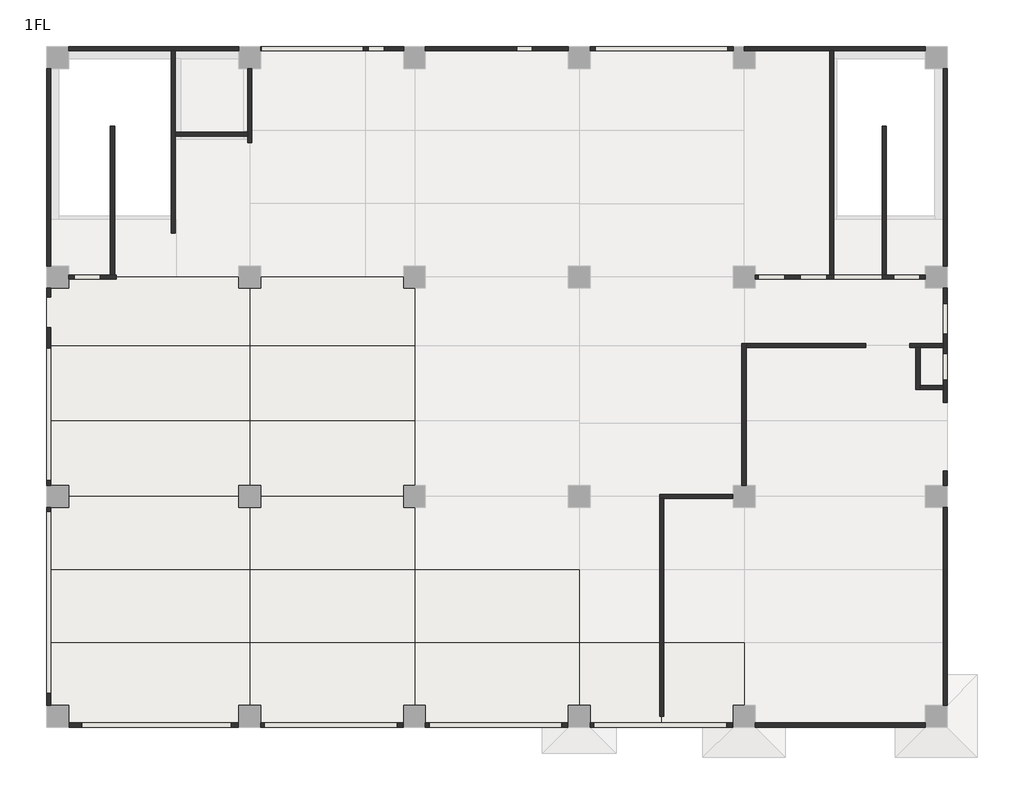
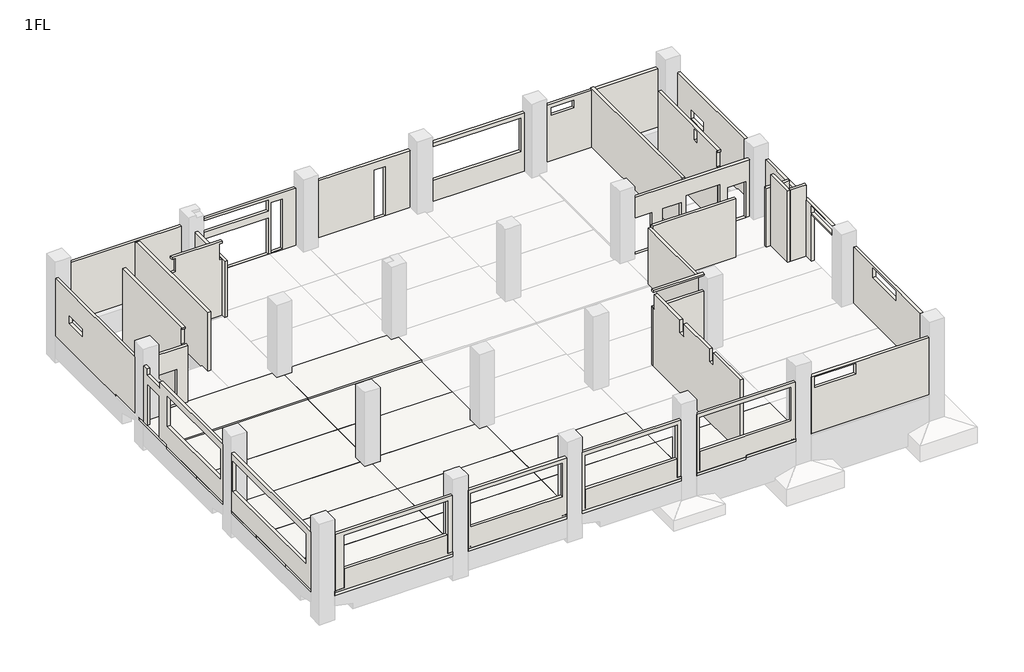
# One storey, part 1 of 4: 31 walls, 16 slabs.
"""IFC4 building model written with IfcOpenShell, lengths in millimetres."""

from ifc_helpers import new_model, si_unit, frame, origin, place, context, project, spatial, polyline, outline, extrude, faceted_brep, element, save

model = new_model("IFC4")

# Units and contexts
model_context = context("Model", 3, world=origin())
ifc_project = project(units=[si_unit("LENGTHUNIT", "METRE", prefix="MILLI")], contexts=[model_context])

# Site, building, storey
site = spatial("IfcSite", under=ifc_project)
building = spatial("IfcBuilding", under=site)
storey = spatial("IfcBuildingStorey", under=building, Name="1FL", Elevation=0.0)

# Slabs
placement = place(None, origin())
element("IfcSlab", 1, ObjectType="S1", at=placement, inside=storey, context=model_context, shape_type="Brep", body=[
    faceted_brep([(19000.0, 2667.0, -250.0), (22000.0, 2667.0, -250.0), (22000.0, 0.0, -250.0), (22000.0, -400.0, -250.0), (19400.0, -400.0, -250.0), (19400.0, 50.0, -250.0), (19400.0, 400.0, -250.0), (19225.0, 400.0, -250.0), (19000.0, 400.0, -250.0), (19000.0, 2664.0, -250.0), (22000.0, 2667.0, -100.0), (19000.0, 2667.0, -100.0), (19000.0, 2664.0, -100.0), (19000.0, 400.0, -100.0), (19400.0, 400.0, -100.0), (19400.0, -250.0, -100.0), (19400.0, -400.0, -100.0), (22000.0, -400.0, -100.0), (22000.0, -250.0, -100.0), (22000.0, -400.0, -160.0), (22000.0, 2667.0, -160.0)], [[[0, 1, 2, 3, 4, 5, 6, 7, 8, 9]], [[10, 11, 12, 13, 14, 15, 16, 17, 18]], [[3, 19, 17, 16, 4]], [[11, 0, 9, 8, 13, 12]], [[1, 0, 11, 10, 20]], [[3, 2, 1, 20, 10, 18, 17, 19]], [[14, 6, 5, 4, 16, 15]], [[6, 14, 13, 8, 7]]]),
])
element("IfcSlab", 2, ObjectType="S1", at=placement, inside=storey, context=model_context, shape_type="Brep", body=[
    faceted_brep([(22000.0, -400.0, -160.0), (22000.0, 0.0, -160.0), (22000.0, 2667.0, -160.0), (25000.0, 2667.0, -160.0), (25000.0, 2664.0, -160.0), (25000.0, 400.0, -160.0), (24775.0, 400.0, -160.0), (24600.0, 400.0, -160.0), (24600.0, 50.0, -160.0), (24600.0, -400.0, -160.0), (22000.0, 2667.0, -10.0), (22000.0, -250.0, -10.0), (22000.0, -400.0, -10.0), (24600.0, -400.0, -10.0), (24600.0, -250.0, -10.0), (24600.0, 400.0, -10.0), (25000.0, 400.0, -10.0), (25000.0, 2664.0, -10.0), (25000.0, 2667.0, -10.0), (22000.0, -400.0, -100.0), (22000.0, 2667.0, -100.0)], [[[0, 1, 2, 3, 4, 5, 6, 7, 8, 9]], [[10, 11, 12, 13, 14, 15, 16, 17, 18]], [[12, 19, 0, 9, 13]], [[2, 1, 0, 19, 12, 11, 10, 20]], [[3, 2, 20, 10, 18]], [[3, 18, 17, 16, 5, 4]], [[7, 15, 14, 13, 9, 8]], [[15, 7, 6, 5, 16]]]),
])
element("IfcSlab", 3, ObjectType="S2", at=placement, inside=storey, context=model_context, shape_type="Brep", body=[
    faceted_brep([(-400.0, 2664.0, -250.0), (7000.0, 2664.0, -250.0), (7000.0, 400.0, -250.0), (6775.0, 400.0, -250.0), (6600.0, 400.0, -250.0), (6600.0, 50.0, -250.0), (6600.0, -400.0, -250.0), (400.0, -400.0, -250.0), (400.0, 50.0, -250.0), (400.0, 400.0, -250.0), (50.0, 400.0, -250.0), (-400.0, 400.0, -250.0), (7000.0, 2664.0, -100.0), (-400.0, 2664.0, -100.0), (-400.0, 400.0, -100.0), (-250.0, 400.0, -100.0), (400.0, 400.0, -100.0), (400.0, -250.0, -100.0), (400.0, -400.0, -100.0), (6600.0, -400.0, -100.0), (6600.0, -250.0, -100.0), (6600.0, 400.0, -100.0), (7000.0, 400.0, -100.0)], [[[0, 1, 2, 3, 4, 5, 6, 7, 8, 9, 10, 11]], [[12, 13, 14, 15, 16, 17, 18, 19, 20, 21, 22]], [[18, 7, 6, 19]], [[13, 0, 11, 14]], [[1, 0, 13, 12]], [[1, 12, 22, 2]], [[16, 9, 8, 7, 18, 17]], [[9, 16, 15, 14, 11, 10]], [[4, 21, 20, 19, 6, 5]], [[21, 4, 3, 2, 22]]]),
])
element("IfcSlab", 4, ObjectType="S2", at=placement, inside=storey, context=model_context, shape_type="SweptSolid", body=[
    extrude(outline(polyline([(7000.0, 5328.0), (7000.0, 2664.0), (-400.0, 2664.0), (-400.0, 5328.0), (7000.0, 5328.0)])), frame((0.0, 0.0, -250.0), z_axis=(0.0, 0.0, 1.0), x_axis=(1.0, 0.0, 0.0)), (0.0, 0.0, 1.0), 150.0),
])
element("IfcSlab", 5, ObjectType="S2", at=placement, inside=storey, context=model_context, shape_type="Brep", body=[
    faceted_brep([(7000.0, 5328.0, -250.0), (-400.0, 5328.0, -250.0), (-400.0, 7600.0, -250.0), (50.0, 7600.0, -250.0), (400.0, 7600.0, -250.0), (400.0, 7775.0, -250.0), (400.0, 8000.0, -250.0), (6600.0, 8000.0, -250.0), (6600.0, 7775.0, -250.0), (6600.0, 7600.0, -250.0), (6775.0, 7600.0, -250.0), (7000.0, 7600.0, -250.0), (-400.0, 5328.0, -100.0), (7000.0, 5328.0, -100.0), (7000.0, 7600.0, -100.0), (6600.0, 7600.0, -100.0), (6600.0, 8000.0, -100.0), (400.0, 8000.0, -100.0), (400.0, 7600.0, -100.0), (-250.0, 7600.0, -100.0), (-400.0, 7600.0, -100.0)], [[[0, 1, 2, 3, 4, 5, 6, 7, 8, 9, 10, 11]], [[12, 13, 14, 15, 16, 17, 18, 19, 20]], [[13, 0, 11, 14]], [[1, 0, 13, 12]], [[1, 12, 20, 2]], [[6, 17, 16, 7]], [[4, 18, 17, 6, 5]], [[18, 4, 3, 2, 20, 19]], [[9, 15, 14, 11, 10]], [[15, 9, 8, 7, 16]]]),
])
element("IfcSlab", 6, ObjectType="S2", at=placement, inside=storey, context=model_context, shape_type="Brep", body=[
    faceted_brep([(7000.0, 2664.0, -250.0), (13000.0, 2664.0, -250.0), (13000.0, 400.0, -250.0), (12775.0, 400.0, -250.0), (12600.0, 400.0, -250.0), (12600.0, 50.0, -250.0), (12600.0, -400.0, -250.0), (7400.0, -400.0, -250.0), (7400.0, 50.0, -250.0), (7400.0, 400.0, -250.0), (7225.0, 400.0, -250.0), (7000.0, 400.0, -250.0), (13000.0, 2664.0, -100.0), (7000.0, 2664.0, -100.0), (7000.0, 400.0, -100.0), (7400.0, 400.0, -100.0), (7400.0, -400.0, -100.0), (12600.0, -400.0, -100.0), (12600.0, 400.0, -100.0), (13000.0, 400.0, -100.0)], [[[0, 1, 2, 3, 4, 5, 6, 7, 8, 9, 10, 11]], [[12, 13, 14, 15, 16, 17, 18, 19]], [[16, 7, 6, 17]], [[13, 0, 11, 14]], [[1, 0, 13, 12]], [[1, 12, 19, 2]], [[15, 9, 8, 7, 16]], [[9, 15, 14, 11, 10]], [[4, 18, 17, 6, 5]], [[18, 4, 3, 2, 19]]]),
])
element("IfcSlab", 7, ObjectType="S2", at=placement, inside=storey, context=model_context, shape_type="SweptSolid", body=[
    extrude(outline(polyline([(13000.0, 5328.0), (13000.0, 2664.0), (7000.0, 2664.0), (7000.0, 5328.0), (13000.0, 5328.0)])), frame((0.0, 0.0, -250.0), z_axis=(0.0, 0.0, 1.0), x_axis=(1.0, 0.0, 0.0)), (0.0, 0.0, 1.0), 150.0),
])
element("IfcSlab", 8, ObjectType="S2", at=placement, inside=storey, context=model_context, shape_type="Brep", body=[
    faceted_brep([(13000.0, 5328.0, -250.0), (7000.0, 5328.0, -250.0), (7000.0, 7600.0, -250.0), (7225.0, 7600.0, -250.0), (7400.0, 7600.0, -250.0), (7400.0, 7775.0, -250.0), (7400.0, 8000.0, -250.0), (12600.0, 8000.0, -250.0), (12600.0, 7775.0, -250.0), (12600.0, 7600.0, -250.0), (12775.0, 7600.0, -250.0), (13000.0, 7600.0, -250.0), (7000.0, 5328.0, -100.0), (13000.0, 5328.0, -100.0), (13000.0, 7600.0, -100.0), (12600.0, 7600.0, -100.0), (12600.0, 8000.0, -100.0), (7400.0, 8000.0, -100.0), (7400.0, 7600.0, -100.0), (7000.0, 7600.0, -100.0)], [[[0, 1, 2, 3, 4, 5, 6, 7, 8, 9, 10, 11]], [[12, 13, 14, 15, 16, 17, 18, 19]], [[13, 0, 11, 14]], [[1, 0, 13, 12]], [[1, 12, 19, 2]], [[6, 17, 16, 7]], [[4, 18, 17, 6, 5]], [[18, 4, 3, 2, 19]], [[9, 15, 14, 11, 10]], [[15, 9, 8, 7, 16]]]),
])
element("IfcSlab", 9, ObjectType="S2", at=placement, inside=storey, context=model_context, shape_type="Brep", body=[
    faceted_brep([(13000.0, 2664.0, -250.0), (19000.0, 2664.0, -250.0), (19000.0, 400.0, -250.0), (18775.0, 400.0, -250.0), (18600.0, 400.0, -250.0), (18600.0, 50.0, -250.0), (18600.0, -400.0, -250.0), (13400.0, -400.0, -250.0), (13400.0, 50.0, -250.0), (13400.0, 400.0, -250.0), (13225.0, 400.0, -250.0), (13000.0, 400.0, -250.0), (19000.0, 2664.0, -100.0), (13000.0, 2664.0, -100.0), (13000.0, 400.0, -100.0), (13400.0, 400.0, -100.0), (13400.0, -250.0, -100.0), (13400.0, -400.0, -100.0), (18600.0, -400.0, -100.0), (18600.0, -250.0, -100.0), (18600.0, 400.0, -100.0), (19000.0, 400.0, -100.0)], [[[0, 1, 2, 3, 4, 5, 6, 7, 8, 9, 10, 11]], [[12, 13, 14, 15, 16, 17, 18, 19, 20, 21]], [[17, 7, 6, 18]], [[13, 0, 11, 14]], [[1, 0, 13, 12]], [[1, 12, 21, 2]], [[15, 9, 8, 7, 17, 16]], [[9, 15, 14, 11, 10]], [[4, 20, 19, 18, 6, 5]], [[20, 4, 3, 2, 21]]]),
])
element("IfcSlab", 10, ObjectType="S2", at=placement, inside=storey, context=model_context, shape_type="Brep", body=[
    faceted_brep([(19000.0, 5328.0, -250.0), (19000.0, 2667.0, -250.0), (19000.0, 2664.0, -250.0), (13000.0, 2664.0, -250.0), (13000.0, 5328.0, -250.0), (19000.0, 5328.0, -100.0), (13000.0, 5328.0, -100.0), (13000.0, 2664.0, -100.0), (19000.0, 2664.0, -100.0), (19000.0, 2667.0, -100.0)], [[[0, 1, 2, 3, 4]], [[5, 6, 7, 8, 9]], [[2, 1, 0, 5, 9, 8]], [[3, 2, 8, 7]], [[4, 3, 7, 6]], [[0, 4, 6, 5]]]),
])
element("IfcSlab", 11, ObjectType="S2", at=placement, inside=storey, context=model_context, shape_type="Brep", body=[
    faceted_brep([(7000.0, 13496.0, -160.0), (6775.0, 13496.0, -160.0), (50.0, 13496.0, -160.0), (-400.0, 13496.0, -160.0), (-400.0, 15600.0, -160.0), (-400.0, 16000.0, -160.0), (4144.0, 16000.0, -160.0), (4494.0, 16000.0, -160.0), (6600.0, 16000.0, -160.0), (6600.0, 15775.0, -160.0), (6600.0, 15600.0, -160.0), (6775.0, 15600.0, -160.0), (7000.0, 15600.0, -160.0), (-400.0, 13496.0, -10.0), (-250.0, 13496.0, -10.0), (7000.0, 13496.0, -10.0), (7000.0, 15600.0, -10.0), (6600.0, 15600.0, -10.0), (6600.0, 16000.0, -10.0), (4319.0, 16000.0, -10.0), (-400.0, 16000.0, -10.0), (-400.0, 15600.0, -10.0), (-400.0, 15262.5, -10.0), (-400.0, 14152.5, -10.0), (7000.0, 13496.0, -100.0), (-400.0, 13496.0, -100.0)], [[[0, 1, 2, 3, 4, 5, 6, 7, 8, 9, 10, 11, 12]], [[13, 14, 15, 16, 17, 18, 19, 20, 21, 22, 23]], [[15, 24, 0, 12, 16]], [[3, 2, 1, 0, 24, 15, 14, 13, 25]], [[5, 4, 3, 25, 13, 23, 22, 21, 20]], [[5, 20, 19, 18, 8, 7, 6]], [[10, 17, 16, 12, 11]], [[17, 10, 9, 8, 18]]]),
])
element("IfcSlab", 12, ObjectType="S2", at=placement, inside=storey, context=model_context, shape_type="Brep", body=[
    faceted_brep([(13000.0, 13496.0, -160.0), (12775.0, 13496.0, -160.0), (7225.0, 13496.0, -160.0), (7000.0, 13496.0, -160.0), (7000.0, 15600.0, -160.0), (7225.0, 15600.0, -160.0), (7400.0, 15600.0, -160.0), (7400.0, 15775.0, -160.0), (7400.0, 16000.0, -160.0), (11200.0, 16000.0, -160.0), (12600.0, 16000.0, -160.0), (12600.0, 15775.0, -160.0), (12600.0, 15600.0, -160.0), (12775.0, 15600.0, -160.0), (13000.0, 15600.0, -160.0), (7000.0, 13496.0, -10.0), (13000.0, 13496.0, -10.0), (13000.0, 15600.0, -10.0), (12600.0, 15600.0, -10.0), (12600.0, 16000.0, -10.0), (11200.0, 16000.0, -10.0), (7400.0, 16000.0, -10.0), (7400.0, 15600.0, -10.0), (7000.0, 15600.0, -10.0), (13000.0, 13496.0, -100.0), (7000.0, 13496.0, -100.0)], [[[0, 1, 2, 3, 4, 5, 6, 7, 8, 9, 10, 11, 12, 13, 14]], [[15, 16, 17, 18, 19, 20, 21, 22, 23]], [[16, 24, 0, 14, 17]], [[3, 2, 1, 0, 24, 16, 15, 25]], [[3, 25, 15, 23, 4]], [[8, 21, 20, 19, 10, 9]], [[6, 22, 21, 8, 7]], [[22, 6, 5, 4, 23]], [[12, 18, 17, 14, 13]], [[18, 12, 11, 10, 19]]]),
])
element("IfcSlab", 13, ObjectType="S2", at=placement, inside=storey, context=model_context, shape_type="Brep", body=[
    faceted_brep([(-400.0, 10748.0, -250.0), (7000.0, 10748.0, -250.0), (7000.0, 8400.0, -250.0), (6775.0, 8400.0, -250.0), (6600.0, 8400.0, -250.0), (6600.0, 8225.0, -250.0), (6600.0, 8000.0, -250.0), (400.0, 8000.0, -250.0), (400.0, 8225.0, -250.0), (400.0, 8400.0, -250.0), (50.0, 8400.0, -250.0), (-400.0, 8400.0, -250.0), (7000.0, 10748.0, -100.0), (-400.0, 10748.0, -100.0), (-400.0, 8400.0, -100.0), (-250.0, 8400.0, -100.0), (400.0, 8400.0, -100.0), (400.0, 8000.0, -100.0), (6600.0, 8000.0, -100.0), (6600.0, 8400.0, -100.0), (7000.0, 8400.0, -100.0)], [[[0, 1, 2, 3, 4, 5, 6, 7, 8, 9, 10, 11]], [[12, 13, 14, 15, 16, 17, 18, 19, 20]], [[17, 7, 6, 18]], [[13, 0, 11, 14]], [[1, 0, 13, 12]], [[1, 12, 20, 2]], [[16, 9, 8, 7, 17]], [[9, 16, 15, 14, 11, 10]], [[4, 19, 18, 6, 5]], [[19, 4, 3, 2, 20]]]),
])
element("IfcSlab", 14, ObjectType="S2", at=placement, inside=storey, context=model_context, shape_type="Brep", body=[
    faceted_brep([(7000.0, 13496.0, -250.0), (7000.0, 10748.0, -250.0), (-400.0, 10748.0, -250.0), (-400.0, 13496.0, -250.0), (50.0, 13496.0, -250.0), (6775.0, 13496.0, -250.0), (7000.0, 13496.0, -100.0), (-250.0, 13496.0, -100.0), (-400.0, 13496.0, -100.0), (-400.0, 10748.0, -100.0), (7000.0, 10748.0, -100.0), (7000.0, 13496.0, -160.0), (-400.0, 13496.0, -160.0)], [[[0, 1, 2, 3, 4, 5]], [[6, 7, 8, 9, 10]], [[1, 0, 11, 6, 10]], [[2, 1, 10, 9]], [[3, 2, 9, 8, 12]], [[0, 5, 4, 3, 12, 8, 7, 6, 11]]]),
])
element("IfcSlab", 15, ObjectType="S2", at=placement, inside=storey, context=model_context, shape_type="Brep", body=[
    faceted_brep([(7000.0, 10748.0, -250.0), (13000.0, 10748.0, -250.0), (13000.0, 8400.0, -250.0), (12775.0, 8400.0, -250.0), (12600.0, 8400.0, -250.0), (12600.0, 8225.0, -250.0), (12600.0, 8000.0, -250.0), (7400.0, 8000.0, -250.0), (7400.0, 8225.0, -250.0), (7400.0, 8400.0, -250.0), (7225.0, 8400.0, -250.0), (7000.0, 8400.0, -250.0), (13000.0, 10748.0, -100.0), (7000.0, 10748.0, -100.0), (7000.0, 8400.0, -100.0), (7400.0, 8400.0, -100.0), (7400.0, 8000.0, -100.0), (12600.0, 8000.0, -100.0), (12600.0, 8400.0, -100.0), (13000.0, 8400.0, -100.0)], [[[0, 1, 2, 3, 4, 5, 6, 7, 8, 9, 10, 11]], [[12, 13, 14, 15, 16, 17, 18, 19]], [[16, 7, 6, 17]], [[13, 0, 11, 14]], [[1, 0, 13, 12]], [[1, 12, 19, 2]], [[15, 9, 8, 7, 16]], [[9, 15, 14, 11, 10]], [[4, 18, 17, 6, 5]], [[18, 4, 3, 2, 19]]]),
])
element("IfcSlab", 16, ObjectType="S2", at=placement, inside=storey, context=model_context, shape_type="Brep", body=[
    faceted_brep([(13000.0, 13496.0, -250.0), (13000.0, 10748.0, -250.0), (7000.0, 10748.0, -250.0), (7000.0, 13496.0, -250.0), (7225.0, 13496.0, -250.0), (12775.0, 13496.0, -250.0), (13000.0, 13496.0, -100.0), (7000.0, 13496.0, -100.0), (7000.0, 10748.0, -100.0), (13000.0, 10748.0, -100.0), (13000.0, 13496.0, -160.0), (7000.0, 13496.0, -160.0)], [[[0, 1, 2, 3, 4, 5]], [[6, 7, 8, 9]], [[1, 0, 10, 6, 9]], [[2, 1, 9, 8]], [[3, 2, 8, 7, 11]], [[0, 5, 4, 3, 11, 7, 6, 10]]]),
])

# Walls
element("IfcWall", 17, ObjectType="EW15", at=placement, inside=storey, context=model_context, shape_type="SweptSolid", body=[
    extrude(outline(polyline([(3150.0, 31600.0), (3150.0, 25400.0), (-10.0, 25400.0), (-10.0, 31600.0), (3150.0, 31600.0)]), holes=[polyline([(3060.0, 25602.7), (3060.0, 27742.7), (2475.0, 27742.7), (2475.0, 25602.7), (3060.0, 25602.7)])]), frame((0.0, -400.0, 0.0), z_axis=(0.0, 1.0, 0.0), x_axis=(0.0, 0.0, 1.0)), (0.0, 0.0, 1.0), 150.0),
])
element("IfcWall", 18, ObjectType="EW15", at=placement, inside=storey, context=model_context, shape_type="Brep", body=[
    faceted_brep([(400.0, 24400.0, -100.0), (400.0, 24400.0, 3150.0), (6600.0, 24400.0, 3150.0), (6600.0, 24400.0, -100.0), (400.0, 24250.0, 3150.0), (400.0, 24250.0, -100.0), (4144.0, 24250.0, -100.0), (4294.0, 24250.0, -100.0), (6600.0, 24250.0, -100.0), (6600.0, 24250.0, 3150.0), (4294.0, 24250.0, 3150.0), (4144.0, 24250.0, 3150.0)], [[[0, 1, 2, 3]], [[4, 5, 6, 7, 8, 9, 10, 11]], [[5, 0, 3, 8, 7, 6]], [[1, 4, 11, 10, 9, 2]], [[1, 0, 5, 4]], [[3, 2, 9, 8]]]),
])
element("IfcWall", 19, ObjectType="EW15", at=placement, inside=storey, context=model_context, shape_type="SweptSolid", body=[
    extrude(outline(polyline([(3150.0, 13400.0), (-10.0, 13400.0), (-10.0, 18600.0), (3150.0, 18600.0), (3150.0, 13400.0)]), holes=[polyline([(2715.0, 16720.0), (2715.0, 17280.0), (0.0, 17280.0), (0.0, 16720.0), (2715.0, 16720.0)])]), frame((0.0, 24250.0, 0.0), z_axis=(0.0, 1.0, 0.0), x_axis=(0.0, 0.0, 1.0)), (0.0, 0.0, 1.0), 150.0),
])
element("IfcWall", 20, ObjectType="EW15", at=placement, inside=storey, context=model_context, shape_type="Brep", body=[
    faceted_brep([(28199.0, 24400.0, -10.0), (25000.0, 24400.0, -10.0), (25000.0, 24400.0, 3150.0), (25400.0, 24400.0, 3150.0), (31600.0, 24400.0, 3150.0), (31600.0, 24400.0, -100.0), (28199.0, 24400.0, -100.0), (27190.0, 24400.0, 2935.0), (26010.0, 24400.0, 2935.0), (26010.0, 24400.0, 2515.0), (27190.0, 24400.0, 2515.0), (25000.0, 24250.0, -10.0), (28125.0, 24250.0, -10.0), (28199.0, 24250.0, -10.0), (28199.0, 24250.0, -100.0), (28275.0, 24250.0, -100.0), (31600.0, 24250.0, -100.0), (31600.0, 24250.0, 3150.0), (28275.0, 24250.0, 3150.0), (28125.0, 24250.0, 3150.0), (25000.0, 24250.0, 3150.0), (26010.0, 24250.0, 2935.0), (27190.0, 24250.0, 2935.0), (27190.0, 24250.0, 2515.0), (26010.0, 24250.0, 2515.0)], [[[0, 1, 2, 3, 4, 5, 6], [7, 8, 9, 10]], [[11, 12, 13, 14, 15, 16, 17, 18, 19, 20], [21, 22, 23, 24]], [[14, 6, 5, 16, 15]], [[20, 2, 1, 11]], [[2, 20, 19, 18, 17, 4, 3]], [[0, 13, 12, 11, 1]], [[13, 0, 6, 14]], [[5, 4, 17, 16]], [[7, 22, 21, 8]], [[9, 24, 23, 10]], [[22, 7, 10, 23]], [[8, 21, 24, 9]]]),
])
element("IfcWall", 21, ObjectType="EW15", at=placement, inside=storey, context=model_context, shape_type="SweptSolid", body=[
    extrude(outline(polyline([(18100.0, -100.0), (18100.0, -10.0), (16400.0, -10.0), (16400.0, 3100.0), (23600.0, 3100.0), (23600.0, -100.0), (18100.0, -100.0)]), holes=[polyline([(22325.0, 1785.0), (21145.0, 1785.0), (21145.0, 1365.0), (22325.0, 1365.0), (22325.0, 1785.0)])]), frame((-400.0, 0.0, 0.0), z_axis=(1.0, 0.0, 0.0), x_axis=(0.0, 1.0, 0.0)), (0.0, 0.0, 1.0), 150.0),
])
element("IfcWall", 22, ObjectType="EW15", at=placement, inside=storey, context=model_context, shape_type="Brep", body=[
    faceted_brep([(32250.0, 400.0, 3100.0), (32250.0, 7600.0, 3100.0), (32250.0, 7600.0, -10.0), (32250.0, 400.0, -10.0), (32250.0, 5860.0, 3000.0), (32250.0, 3740.0, 3000.0), (32250.0, 3740.0, 2475.0), (32250.0, 5860.0, 2475.0), (32400.0, 7600.0, 3100.0), (32400.0, 400.0, 3100.0), (32400.0, 400.0, -10.0), (32400.0, 2664.0, -10.0), (32400.0, 5328.0, -10.0), (32400.0, 7600.0, -10.0), (32400.0, 3740.0, 3000.0), (32400.0, 5860.0, 3000.0), (32400.0, 5860.0, 2475.0), (32400.0, 3740.0, 2475.0)], [[[0, 1, 2, 3], [4, 5, 6, 7]], [[8, 9, 10, 11, 12, 13], [14, 15, 16, 17]], [[9, 0, 3, 10]], [[1, 0, 9, 8]], [[1, 8, 13, 2]], [[2, 13, 12, 11, 10, 3]], [[4, 15, 14, 5]], [[6, 17, 16, 7]], [[15, 4, 7, 16]], [[5, 14, 17, 6]]]),
])
element("IfcWall", 23, ObjectType="EW15", at=placement, inside=storey, context=model_context, shape_type="SweptSolid", body=[
    extrude(outline(polyline([(16400.0, 3100.0), (23600.0, 3100.0), (23600.0, -100.0), (18100.0, -100.0), (18100.0, -10.0), (16400.0, -10.0), (16400.0, 3100.0)]), holes=[polyline([(22360.0, 1760.0), (21240.0, 1760.0), (21240.0, 1275.0), (22360.0, 1275.0), (22360.0, 1760.0)])]), frame((32250.0, 0.0, 0.0), z_axis=(1.0, 0.0, 0.0), x_axis=(0.0, 1.0, 0.0)), (0.0, 0.0, 1.0), 150.0),
])
element("IfcWall", 24, ObjectType="W15", at=placement, inside=storey, context=model_context, shape_type="SweptSolid", body=[
    extrude(outline(polyline([(2940.0, 870.0), (2940.0, 6325.0), (25.0, 6325.0), (25.0, 6575.0), (3150.0, 6575.0), (3150.0, 425.0), (25.0, 425.0), (25.0, 870.0), (2940.0, 870.0)])), frame((0.0, -400.0, 0.0), z_axis=(0.0, 1.0, 0.0), x_axis=(0.0, 0.0, 1.0)), (0.0, 0.0, 1.0), 150.0),
    extrude(outline(polyline([(0.0, 400.0), (-100.0, 400.0), (-100.0, 6600.0), (0.0, 6600.0), (0.0, 6300.0), (1060.0, 6300.0), (1060.0, 895.0), (0.0, 895.0), (0.0, 400.0)])), frame((0.0, -400.0, 0.0), z_axis=(0.0, 1.0, 0.0), x_axis=(0.0, 0.0, 1.0)), (0.0, 0.0, 1.0), 150.0),
])
element("IfcWall", 25, ObjectType="W15", at=placement, inside=storey, context=model_context, shape_type="SweptSolid", body=[
    extrude(outline(polyline([(-100.0, 7400.0), (-100.0, 12600.0), (0.0, 12600.0), (0.0, 12350.0), (1060.0, 12350.0), (1060.0, 7550.0), (0.0, 7550.0), (0.0, 7525.0), (2940.0, 7525.0), (2940.0, 12375.0), (25.0, 12375.0), (25.0, 12575.0), (3150.0, 12575.0), (3150.0, 7400.0), (-100.0, 7400.0)])), frame((0.0, -400.0, 0.0), z_axis=(0.0, 1.0, 0.0), x_axis=(0.0, 0.0, 1.0)), (0.0, 0.0, 1.0), 150.0),
])
element("IfcWall", 26, ObjectType="W15", at=placement, inside=storey, context=model_context, shape_type="SweptSolid", body=[
    extrude(outline(polyline([(-100.0, 13400.0), (-100.0, 18600.0), (0.0, 18600.0), (0.0, 18350.0), (1060.0, 18350.0), (1060.0, 13550.0), (0.0, 13550.0), (0.0, 13525.0), (2940.0, 13525.0), (2940.0, 18375.0), (25.0, 18375.0), (25.0, 18575.0), (3150.0, 18575.0), (3150.0, 13400.0), (-100.0, 13400.0)])), frame((0.0, -400.0, 0.0), z_axis=(0.0, 1.0, 0.0), x_axis=(0.0, 0.0, 1.0)), (0.0, 0.0, 1.0), 150.0),
])
element("IfcWall", 27, ObjectType="W15", at=placement, inside=storey, context=model_context, shape_type="SweptSolid", body=[
    extrude(outline(polyline([(3150.0, 19400.0), (-100.0, 19400.0), (-100.0, 22000.0), (-10.0, 22000.0), (-10.0, 24600.0), (0.0, 24600.0), (0.0, 24350.0), (1060.0, 24350.0), (1060.0, 19550.0), (0.0, 19550.0), (0.0, 19525.0), (2940.0, 19525.0), (2940.0, 24375.0), (25.0, 24375.0), (25.0, 24575.0), (3150.0, 24575.0), (3150.0, 19400.0)])), frame((0.0, -400.0, 0.0), z_axis=(0.0, 1.0, 0.0), x_axis=(0.0, 0.0, 1.0)), (0.0, 0.0, 1.0), 150.0),
])
element("IfcWall", 28, ObjectType="W15", at=placement, inside=storey, context=model_context, shape_type="Brep", body=[
    faceted_brep([(24600.0, 8075.0, 0.0), (24600.0, 8075.0, -250.0), (21925.0, 8075.0, -250.0), (21925.0, 8075.0, 3150.0), (24575.0, 8075.0, 3150.0), (24575.0, 8075.0, 0.0), (24600.0, 7925.0, -250.0), (24600.0, 7925.0, -160.0), (24600.0, 7925.0, 0.0), (24575.0, 7925.0, 0.0), (24575.0, 7925.0, 3150.0), (22075.0, 7925.0, 3150.0), (21925.0, 7925.0, 3150.0), (21925.0, 7925.0, -250.0), (22075.0, 7925.0, -250.0)], [[[0, 1, 2, 3, 4, 5]], [[6, 7, 8, 9, 10, 11, 12, 13, 14]], [[1, 6, 14, 13, 2]], [[1, 0, 8, 7, 6]], [[4, 3, 12, 11, 10]], [[9, 8, 0, 5]], [[10, 9, 5, 4]], [[2, 13, 12, 3]]]),
    faceted_brep([(21925.0, 8075.0, 4100.0), (24600.0, 8075.0, 4100.0), (24600.0, 8075.0, 4000.0), (21925.0, 8075.0, 4000.0), (24600.0, 7925.0, 4100.0), (21925.0, 7925.0, 4100.0), (21925.0, 7925.0, 4000.0), (24600.0, 7925.0, 4000.0)], [[[0, 1, 2, 3]], [[4, 5, 6, 7]], [[4, 1, 0, 5]], [[1, 4, 7, 2]], [[3, 2, 7, 6]], [[5, 0, 3, 6]]]),
])
element("IfcWall", 29, ObjectType="W15", at=placement, inside=storey, context=model_context, shape_type="Brep", body=[
    faceted_brep([(2130.0, 16075.0, 3150.0), (2130.0, 16075.0, -10.0), (400.0, 16075.0, -10.0), (400.0, 16075.0, 3150.0), (1925.0, 16075.0, 3150.0), (2075.0, 16075.0, 3150.0), (1550.0, 16075.0, 2000.0), (600.0, 16075.0, 2000.0), (600.0, 16075.0, 0.0), (1550.0, 16075.0, 0.0), (2130.0, 15925.0, -10.0), (2130.0, 15925.0, 3150.0), (400.0, 15925.0, 3150.0), (400.0, 15925.0, -10.0), (600.0, 15925.0, 2000.0), (1550.0, 15925.0, 2000.0), (1550.0, 15925.0, 0.0), (600.0, 15925.0, 0.0)], [[[0, 1, 2, 3, 4, 5], [6, 7, 8, 9]], [[10, 11, 12, 13], [14, 15, 16, 17]], [[1, 10, 13, 2]], [[11, 0, 5, 4, 3, 12]], [[6, 15, 14, 7]], [[15, 6, 9, 16]], [[7, 14, 17, 8]], [[1, 0, 11, 10]], [[3, 2, 13, 12]], [[16, 9, 8, 17]]]),
])
element("IfcWall", 30, ObjectType="W15", at=placement, inside=storey, context=model_context, shape_type="Brep", body=[
    faceted_brep([(31600.0, 16075.0, 3150.0), (31600.0, 16075.0, -10.0), (28199.0, 16075.0, -10.0), (28125.0, 16075.0, -10.0), (25400.0, 16075.0, -10.0), (25400.0, 16075.0, 3150.0), (30025.0, 16075.0, 3150.0), (30175.0, 16075.0, 3150.0), (28005.0, 16075.0, 2000.0), (27055.0, 16075.0, 2000.0), (27055.0, 16075.0, 0.0), (28005.0, 16075.0, 0.0), (30025.0, 16075.0, 2300.0), (28275.0, 16075.0, 2300.0), (28275.0, 16075.0, 0.0), (30025.0, 16075.0, 0.0), (31400.0, 16075.0, 2000.0), (30450.0, 16075.0, 2000.0), (30450.0, 16075.0, 0.0), (31400.0, 16075.0, 0.0), (26475.0, 16075.0, 2000.0), (25525.0, 16075.0, 2000.0), (25525.0, 16075.0, 0.0), (26475.0, 16075.0, 0.0), (31600.0, 15925.0, -10.0), (31600.0, 15925.0, 3150.0), (25400.0, 15925.0, 3150.0), (25400.0, 15925.0, -10.0), (27055.0, 15925.0, 2000.0), (28005.0, 15925.0, 2000.0), (28005.0, 15925.0, 0.0), (27055.0, 15925.0, 0.0), (28275.0, 15925.0, 2300.0), (30025.0, 15925.0, 2300.0), (30025.0, 15925.0, 0.0), (28275.0, 15925.0, 0.0), (30450.0, 15925.0, 2000.0), (31400.0, 15925.0, 2000.0), (31400.0, 15925.0, 0.0), (30450.0, 15925.0, 0.0), (25525.0, 15925.0, 2000.0), (26475.0, 15925.0, 2000.0), (26475.0, 15925.0, 0.0), (25525.0, 15925.0, 0.0)], [[[0, 1, 2, 3, 4, 5, 6, 7], [8, 9, 10, 11], [12, 13, 14, 15], [16, 17, 18, 19], [20, 21, 22, 23]], [[24, 25, 26, 27], [28, 29, 30, 31], [32, 33, 34, 35], [36, 37, 38, 39], [40, 41, 42, 43]], [[1, 24, 27, 4, 3, 2]], [[25, 0, 7, 6, 5, 26]], [[8, 29, 28, 9]], [[29, 8, 11, 30]], [[9, 28, 31, 10]], [[12, 33, 32, 13]], [[33, 12, 15, 34]], [[13, 32, 35, 14]], [[16, 37, 36, 17]], [[37, 16, 19, 38]], [[17, 36, 39, 18]], [[1, 0, 25, 24]], [[5, 4, 27, 26]], [[30, 11, 10, 31]], [[20, 41, 40, 21]], [[22, 43, 42, 23]], [[41, 20, 23, 42]], [[21, 40, 43, 22]], [[34, 15, 14, 35]], [[38, 19, 18, 39]]]),
])
element("IfcWall", 31, ObjectType="W15", at=placement, inside=storey, context=model_context, shape_type="Brep", body=[
    faceted_brep([(7400.0, 24400.0, -100.0), (7400.0, 24400.0, -10.0), (7400.0, 24400.0, 3150.0), (12600.0, 24400.0, 3150.0), (12600.0, 24400.0, -10.0), (12600.0, 24400.0, -100.0), (11140.0, 24400.0, 2000.0), (7420.0, 24400.0, 2000.0), (7420.0, 24400.0, 0.0), (11140.0, 24400.0, 0.0), (11890.0, 24400.0, 2795.0), (11310.0, 24400.0, 2795.0), (11310.0, 24400.0, 40.0), (11890.0, 24400.0, 40.0), (7420.0, 24400.0, 2400.0), (11140.0, 24400.0, 2400.0), (11140.0, 24400.0, 3020.0), (7420.0, 24400.0, 3020.0), (7400.0, 24250.0, 3150.0), (7400.0, 24250.0, -100.0), (12600.0, 24250.0, -100.0), (12600.0, 24250.0, 3150.0), (7420.0, 24250.0, 2000.0), (11140.0, 24250.0, 2000.0), (11140.0, 24250.0, 0.0), (7420.0, 24250.0, 0.0), (11310.0, 24250.0, 2795.0), (11890.0, 24250.0, 2795.0), (11890.0, 24250.0, 40.0), (11310.0, 24250.0, 40.0), (11140.0, 24250.0, 2400.0), (7420.0, 24250.0, 2400.0), (7420.0, 24250.0, 3020.0), (11140.0, 24250.0, 3020.0)], [[[0, 1, 2, 3, 4, 5], [6, 7, 8, 9], [10, 11, 12, 13], [14, 15, 16, 17]], [[18, 19, 20, 21], [22, 23, 24, 25], [26, 27, 28, 29], [30, 31, 32, 33]], [[19, 0, 5, 20]], [[2, 18, 21, 3]], [[6, 23, 22, 7]], [[23, 6, 9, 24]], [[7, 22, 25, 8]], [[24, 9, 8, 25]], [[2, 1, 0, 19, 18]], [[5, 4, 3, 21, 20]], [[10, 27, 26, 11]], [[12, 29, 28, 13]], [[27, 10, 13, 28]], [[11, 26, 29, 12]], [[14, 31, 30, 15]], [[15, 30, 33, 16]], [[31, 14, 17, 32]], [[16, 33, 32, 17]]]),
])
element("IfcWall", 32, ObjectType="W15", at=placement, inside=storey, context=model_context, shape_type="SweptSolid", body=[
    extrude(outline(polyline([(3150.0, 19400.0), (-100.0, 19400.0), (-100.0, 24600.0), (3150.0, 24600.0), (3150.0, 19400.0)]), holes=[polyline([(2920.0, 19590.0), (2920.0, 24410.0), (1065.0, 24410.0), (1065.0, 19590.0), (2920.0, 19590.0)])]), frame((0.0, 24250.0, 0.0), z_axis=(0.0, 1.0, 0.0), x_axis=(0.0, 0.0, 1.0)), (0.0, 0.0, 1.0), 150.0),
])
element("IfcWall", 33, ObjectType="W15", at=placement, inside=storey, context=model_context, shape_type="Brep", body=[
    faceted_brep([(-400.0, 7600.0, 3100.0), (-400.0, 7600.0, -100.0), (-400.0, 5328.0, -100.0), (-400.0, 2664.0, -100.0), (-400.0, 400.0, -100.0), (-400.0, 400.0, 3100.0), (-400.0, 7465.0, 2720.0), (-400.0, 835.0, 2720.0), (-400.0, 835.0, 1065.0), (-400.0, 7465.0, 1065.0), (-250.0, 7600.0, -100.0), (-250.0, 7600.0, 3100.0), (-250.0, 400.0, 3100.0), (-250.0, 400.0, -100.0), (-250.0, 835.0, 2720.0), (-250.0, 7465.0, 2720.0), (-250.0, 7465.0, 1065.0), (-250.0, 835.0, 1065.0)], [[[0, 1, 2, 3, 4, 5], [6, 7, 8, 9]], [[10, 11, 12, 13], [14, 15, 16, 17]], [[1, 10, 13, 4, 3, 2]], [[11, 0, 5, 12]], [[1, 0, 11, 10]], [[5, 4, 13, 12]], [[6, 15, 14, 7]], [[8, 17, 16, 9]], [[15, 6, 9, 16]], [[7, 14, 17, 8]]]),
])
element("IfcWall", 34, ObjectType="W15", at=placement, inside=storey, context=model_context, shape_type="Brep", body=[
    faceted_brep([(-400.0, 15262.5, 2285.0), (-400.0, 14152.5, 2285.0), (-400.0, 14152.5, -10.0), (-400.0, 13496.0, -10.0), (-400.0, 13496.0, -100.0), (-400.0, 10748.0, -100.0), (-400.0, 8400.0, -100.0), (-400.0, 8400.0, 3100.0), (-400.0, 14112.5, 3100.0), (-400.0, 14112.5, 2765.0), (-400.0, 15292.5, 2765.0), (-400.0, 15292.5, 3100.0), (-400.0, 15600.0, 3100.0), (-400.0, 15600.0, -10.0), (-400.0, 15262.5, -10.0), (-400.0, 13410.0, 2720.0), (-400.0, 8590.0, 2720.0), (-400.0, 8590.0, 1065.0), (-400.0, 13410.0, 1065.0), (-250.0, 14152.5, 2285.0), (-250.0, 15262.5, 2285.0), (-250.0, 15262.5, -10.0), (-250.0, 15600.0, -10.0), (-250.0, 15600.0, 3100.0), (-250.0, 15292.5, 3100.0), (-250.0, 15292.5, 2765.0), (-250.0, 14112.5, 2765.0), (-250.0, 14112.5, 3100.0), (-250.0, 8400.0, 3100.0), (-250.0, 8400.0, -100.0), (-250.0, 13496.0, -100.0), (-250.0, 13496.0, -10.0), (-250.0, 14152.5, -10.0), (-250.0, 8590.0, 2720.0), (-250.0, 13410.0, 2720.0), (-250.0, 13410.0, 1065.0), (-250.0, 8590.0, 1065.0)], [[[0, 1, 2, 3, 4, 5, 6, 7, 8, 9, 10, 11, 12, 13, 14], [15, 16, 17, 18]], [[19, 20, 21, 22, 23, 24, 25, 26, 27, 28, 29, 30, 31, 32], [33, 34, 35, 36]], [[4, 30, 29, 6, 5]], [[7, 28, 27, 8]], [[11, 24, 23, 12]], [[1, 0, 20, 19]], [[0, 14, 21, 20]], [[2, 1, 19, 32]], [[21, 14, 13, 22]], [[31, 3, 2, 32]], [[3, 31, 30, 4]], [[7, 6, 29, 28]], [[13, 12, 23, 22]], [[15, 34, 33, 16]], [[17, 36, 35, 18]], [[34, 15, 18, 35]], [[16, 33, 36, 17]], [[9, 26, 25, 10]], [[10, 25, 24, 11]], [[26, 9, 8, 27]]]),
])
element("IfcWall", 35, ObjectType="W15", at=placement, inside=storey, context=model_context, shape_type="Brep", body=[
    faceted_brep([(6925.0, 20905.0, -10.0), (6925.0, 20905.0, 3100.0), (6925.0, 21125.0, 3100.0), (6925.0, 21275.0, 3100.0), (6925.0, 23600.0, 3100.0), (6925.0, 23600.0, -10.0), (7075.0, 20905.0, 3100.0), (7075.0, 20905.0, -10.0), (7075.0, 23600.0, -10.0), (7075.0, 23600.0, 3100.0)], [[[0, 1, 2, 3, 4, 5]], [[6, 7, 8, 9]], [[7, 0, 5, 8]], [[1, 0, 7, 6]], [[8, 5, 4, 9]], [[4, 3, 2, 1, 6, 9]]]),
])
element("IfcWall", 36, ObjectType="W15", at=placement, inside=storey, context=model_context, shape_type="Brep", body=[
    faceted_brep([(24925.0, 13575.0, 3100.0), (24925.0, 13575.0, -10.0), (24925.0, 8400.0, -10.0), (24925.0, 8400.0, 3100.0), (25075.0, 13575.0, -10.0), (25075.0, 13575.0, 3100.0), (25075.0, 13425.0, 3100.0), (25075.0, 8400.0, 3100.0), (25075.0, 8400.0, -10.0), (25075.0, 13425.0, -10.0)], [[[0, 1, 2, 3]], [[4, 5, 6, 7, 8, 9]], [[1, 4, 9, 8, 2]], [[1, 0, 5, 4]], [[2, 8, 7, 3]], [[0, 3, 7, 6, 5]]]),
])
element("IfcWall", 37, ObjectType="W15", at=placement, inside=storey, context=model_context, shape_type="Brep", body=[
    faceted_brep([(32250.0, 8400.0, 3100.0), (32250.0, 11905.0, 3100.0), (32250.0, 12055.0, 3100.0), (32250.0, 13425.0, 3100.0), (32250.0, 13575.0, 3100.0), (32250.0, 15600.0, 3100.0), (32250.0, 15600.0, -10.0), (32250.0, 13575.0, -10.0), (32250.0, 13425.0, -10.0), (32250.0, 12055.0, -10.0), (32250.0, 11905.0, -10.0), (32250.0, 11430.0, -10.0), (32250.0, 11430.0, 2585.0), (32250.0, 8930.0, 2585.0), (32250.0, 8930.0, -10.0), (32250.0, 8400.0, -10.0), (32250.0, 15035.0, 2285.0), (32250.0, 13925.0, 2285.0), (32250.0, 13925.0, 0.0), (32250.0, 15035.0, 0.0), (32250.0, 13205.0, 2685.0), (32250.0, 12255.0, 2685.0), (32250.0, 12255.0, 0.0), (32250.0, 13205.0, 0.0), (32250.0, 11445.0, 3060.0), (32250.0, 8890.0, 3060.0), (32250.0, 8890.0, 2665.0), (32250.0, 11445.0, 2665.0), (32400.0, 15600.0, 3100.0), (32400.0, 8400.0, 3100.0), (32400.0, 8400.0, -10.0), (32400.0, 8930.0, -10.0), (32400.0, 8930.0, 2585.0), (32400.0, 11430.0, 2585.0), (32400.0, 11430.0, -10.0), (32400.0, 13496.0, -10.0), (32400.0, 15600.0, -10.0), (32400.0, 13925.0, 2285.0), (32400.0, 15035.0, 2285.0), (32400.0, 15035.0, 0.0), (32400.0, 13925.0, 0.0), (32400.0, 12255.0, 2685.0), (32400.0, 13205.0, 2685.0), (32400.0, 13205.0, 0.0), (32400.0, 12255.0, 0.0), (32400.0, 8890.0, 3060.0), (32400.0, 11445.0, 3060.0), (32400.0, 11445.0, 2665.0), (32400.0, 8890.0, 2665.0)], [[[0, 1, 2, 3, 4, 5, 6, 7, 8, 9, 10, 11, 12, 13, 14, 15], [16, 17, 18, 19], [20, 21, 22, 23], [24, 25, 26, 27]], [[28, 29, 30, 31, 32, 33, 34, 35, 36], [37, 38, 39, 40], [41, 42, 43, 44], [45, 46, 47, 48]], [[29, 0, 15, 30]], [[5, 4, 3, 2, 1, 0, 29, 28]], [[5, 28, 36, 6]], [[12, 33, 32, 13]], [[33, 12, 11, 34]], [[13, 32, 31, 14]], [[16, 38, 37, 17]], [[38, 16, 19, 39]], [[17, 37, 40, 18]], [[15, 14, 31, 30]], [[6, 36, 35, 34, 11, 10, 9, 8, 7]], [[20, 42, 41, 21]], [[42, 20, 23, 43]], [[21, 41, 44, 22]], [[43, 23, 22, 44]], [[39, 19, 18, 40]], [[24, 46, 45, 25]], [[26, 48, 47, 27]], [[46, 24, 27, 47]], [[25, 45, 48, 26]]]),
])
element("IfcWall", 38, ObjectType="W15", at=placement, inside=storey, context=model_context, shape_type="Brep", body=[
    faceted_brep([(4294.0, 21125.0, 0.0), (6925.0, 21125.0, 0.0), (6925.0, 21125.0, 3100.0), (6775.0, 21125.0, 3100.0), (6775.0, 21125.0, 3400.0), (6775.0, 21125.0, 4000.0), (6925.0, 21125.0, 4000.0), (6925.0, 21125.0, 4100.0), (4294.0, 21125.0, 4100.0), (4294.0, 21125.0, 4000.0), (4494.0, 21125.0, 4000.0), (4494.0, 21125.0, 3400.0), (4494.0, 21125.0, 3250.0), (4294.0, 21125.0, 3250.0), (6925.0, 21275.0, 0.0), (4294.0, 21275.0, 0.0), (4294.0, 21275.0, 3250.0), (4494.0, 21275.0, 3250.0), (4494.0, 21275.0, 4000.0), (4294.0, 21275.0, 4000.0), (4294.0, 21275.0, 4100.0), (6925.0, 21275.0, 4100.0), (6925.0, 21275.0, 4000.0), (6775.0, 21275.0, 4000.0), (6775.0, 21275.0, 3100.0), (6925.0, 21275.0, 3100.0)], [[[0, 1, 2, 3, 4, 5, 6, 7, 8, 9, 10, 11, 12, 13]], [[14, 15, 16, 17, 18, 19, 20, 21, 22, 23, 24, 25]], [[1, 0, 15, 14]], [[8, 7, 21, 20]], [[5, 4, 3, 24, 23]], [[3, 2, 25, 24]], [[6, 5, 23, 22]], [[12, 17, 16, 13]], [[10, 18, 17, 12, 11]], [[18, 10, 9, 19]], [[1, 14, 25, 2]], [[21, 7, 6, 22]], [[8, 20, 19, 9]], [[15, 0, 13, 16]]]),
])
element("IfcWall", 39, ObjectType="W15", at=placement, inside=storey, context=model_context, shape_type="Brep", body=[
    faceted_brep([(4294.0, 17600.0, -100.0), (4294.0, 24250.0, -100.0), (4294.0, 24250.0, 3150.0), (4294.0, 24050.0, 3150.0), (4294.0, 24050.0, 3250.0), (4294.0, 21275.0, 3250.0), (4294.0, 21125.0, 3250.0), (4294.0, 17600.0, 3250.0), (4144.0, 24250.0, -100.0), (4144.0, 23950.0, -100.0), (4144.0, 17600.0, -100.0), (4144.0, 17600.0, 3250.0), (4144.0, 24050.0, 3250.0), (4144.0, 24050.0, 3150.0), (4144.0, 24250.0, 3150.0)], [[[0, 1, 2, 3, 4, 5, 6, 7]], [[8, 9, 10, 11, 12, 13, 14]], [[1, 0, 10, 9, 8]], [[11, 7, 6, 5, 4, 12]], [[0, 7, 11, 10]], [[1, 8, 14, 2]], [[13, 3, 2, 14]], [[3, 13, 12, 4]]]),
])
element("IfcWall", 40, ObjectType="W15", at=placement, inside=storey, context=model_context, shape_type="SweptSolid", body=[
    extrude(outline(polyline([(21500.0, 0.0), (16075.0, 0.0), (16075.0, 3150.0), (16175.0, 3150.0), (16175.0, 4000.0), (16075.0, 4000.0), (16075.0, 4100.0), (21500.0, 4100.0), (21500.0, 0.0)])), frame((1925.0, 0.0, 0.0), z_axis=(1.0, 0.0, 0.0), x_axis=(0.0, 1.0, 0.0)), (0.0, 0.0, 1.0), 150.0),
])
element("IfcWall", 41, ObjectType="W15", at=placement, inside=storey, context=model_context, shape_type="Brep", body=[
    faceted_brep([(28125.0, 16075.0, 3250.0), (28125.0, 16175.0, 3250.0), (28125.0, 24050.0, 3250.0), (28125.0, 24325.0, 3250.0), (28125.0, 24325.0, 3150.0), (28125.0, 24250.0, 3150.0), (28125.0, 24250.0, -10.0), (28125.0, 16075.0, -10.0), (28125.0, 16075.0, 3150.0), (28275.0, 24325.0, 3250.0), (28275.0, 24050.0, 3250.0), (28275.0, 16175.0, 3250.0), (28275.0, 16075.0, 3250.0), (28275.0, 16075.0, 3150.0), (28275.0, 16075.0, 2300.0), (28275.0, 16075.0, 0.0), (28275.0, 16075.0, -100.0), (28275.0, 24250.0, -100.0), (28275.0, 24250.0, 3150.0), (28275.0, 24325.0, 3150.0), (28199.0, 16075.0, -100.0), (28199.0, 18100.0, -100.0), (28199.0, 23950.0, -100.0), (28199.0, 24250.0, -100.0), (28199.0, 16075.0, -10.0), (28199.0, 24250.0, -10.0)], [[[0, 1, 2, 3, 4, 5, 6, 7, 8]], [[9, 10, 11, 12, 13, 14, 15, 16, 17, 18, 19]], [[16, 20, 21, 22, 23, 17]], [[3, 2, 1, 0, 12, 11, 10, 9]], [[3, 9, 19, 4]], [[24, 7, 6, 25]], [[20, 24, 25, 23, 22, 21]], [[16, 15, 14, 13, 12, 0, 8, 7, 24, 20]], [[5, 18, 17, 23, 25, 6]], [[18, 5, 4, 19]]]),
])
element("IfcWall", 42, ObjectType="W15", at=placement, inside=storey, context=model_context, shape_type="Brep", body=[
    faceted_brep([(30025.0, 21500.0, 0.0), (30025.0, 16075.0, 0.0), (30025.0, 16075.0, 2300.0), (30025.0, 16075.0, 3150.0), (30025.0, 16175.0, 3150.0), (30025.0, 16175.0, 4000.0), (30025.0, 16075.0, 4000.0), (30025.0, 16075.0, 4100.0), (30025.0, 21500.0, 4100.0), (30025.0, 18225.0, 3400.0), (30025.0, 18225.0, 4000.0), (30025.0, 17975.0, 4000.0), (30025.0, 17975.0, 3400.0), (30175.0, 16075.0, 0.0), (30175.0, 21500.0, 0.0), (30175.0, 21500.0, 4100.0), (30175.0, 16075.0, 4100.0), (30175.0, 16075.0, 4000.0), (30175.0, 16175.0, 4000.0), (30175.0, 16175.0, 3150.0), (30175.0, 16075.0, 3150.0), (30175.0, 18225.0, 4000.0), (30175.0, 18225.0, 3400.0), (30175.0, 17975.0, 3400.0), (30175.0, 17975.0, 4000.0)], [[[0, 1, 2, 3, 4, 5, 6, 7, 8], [9, 10, 11, 12]], [[13, 14, 15, 16, 17, 18, 19, 20], [21, 22, 23, 24]], [[1, 0, 14, 13]], [[8, 7, 16, 15]], [[0, 8, 15, 14]], [[1, 13, 20, 3, 2]], [[16, 7, 6, 17]], [[5, 4, 19, 18]], [[4, 3, 20, 19]], [[6, 5, 18, 17]], [[9, 22, 21, 10]], [[22, 9, 12, 23]], [[11, 24, 23, 12]], [[24, 11, 10, 21]]]),
])
element("IfcWall", 43, ObjectType="W15", at=placement, inside=storey, context=model_context, shape_type="Brep", body=[
    faceted_brep([(32250.0, 13575.0, -10.0), (31035.0, 13575.0, -10.0), (31035.0, 13575.0, 3250.0), (32050.0, 13575.0, 3250.0), (32250.0, 13575.0, 3250.0), (32250.0, 13575.0, 3100.0), (32250.0, 13425.0, -10.0), (32250.0, 13425.0, 3100.0), (32250.0, 13425.0, 3250.0), (32050.0, 13425.0, 3250.0), (31035.0, 13425.0, 3250.0), (31035.0, 13425.0, -10.0), (31260.0, 13425.0, -10.0), (31410.0, 13425.0, -10.0)], [[[0, 1, 2, 3, 4, 5]], [[6, 7, 8, 9, 10, 11, 12, 13]], [[1, 0, 6, 13, 12, 11]], [[2, 1, 11, 10]], [[4, 3, 2, 10, 9, 8]], [[0, 5, 4, 8, 7, 6]]]),
])
element("IfcWall", 44, ObjectType="W15", at=placement, inside=storey, context=model_context, shape_type="Brep", body=[
    faceted_brep([(21925.0, 7925.0, -250.0), (21925.0, 0.0, -250.0), (21925.0, 0.0, 3940.0), (21925.0, 2485.0, 3940.0), (21925.0, 2485.0, 3250.0), (21925.0, 2835.0, 3250.0), (21925.0, 2835.0, 3940.0), (21925.0, 5155.0, 3940.0), (21925.0, 5155.0, 3250.0), (21925.0, 5505.0, 3250.0), (21925.0, 5505.0, 3940.0), (21925.0, 7825.0, 3940.0), (21925.0, 7825.0, 3150.0), (21925.0, 7925.0, 3150.0), (22075.0, 0.0, -250.0), (22075.0, 50.0, -250.0), (22075.0, 2485.0, -250.0), (22075.0, 2835.0, -250.0), (22075.0, 5155.0, -250.0), (22075.0, 5505.0, -250.0), (22075.0, 7775.0, -250.0), (22075.0, 7925.0, -250.0), (22075.0, 7925.0, -160.0), (22075.0, 7925.0, 3150.0), (22075.0, 7825.0, 3150.0), (22075.0, 7825.0, 3940.0), (22075.0, 5505.0, 3940.0), (22075.0, 5505.0, 3250.0), (22075.0, 5155.0, 3250.0), (22075.0, 5155.0, 3940.0), (22075.0, 2835.0, 3940.0), (22075.0, 2835.0, 3250.0), (22075.0, 2485.0, 3250.0), (22075.0, 2485.0, 3940.0), (22075.0, 0.0, 3940.0), (22075.0, 0.0, -160.0), (22000.0, 0.0, -250.0)], [[[0, 1, 2, 3, 4, 5, 6, 7, 8, 9, 10, 11, 12, 13]], [[14, 15, 16, 17, 18, 19, 20, 21, 22, 23, 24, 25, 26, 27, 28, 29, 30, 31, 32, 33, 34, 35]], [[1, 0, 21, 20, 19, 18, 17, 16, 15, 14, 36]], [[2, 1, 36, 14, 35, 34]], [[2, 34, 33, 3]], [[6, 30, 29, 7]], [[25, 11, 10, 26]], [[13, 12, 24, 23]], [[12, 11, 25, 24]], [[6, 5, 31, 30]], [[5, 4, 32, 31]], [[4, 3, 33, 32]], [[9, 27, 26, 10]], [[27, 9, 8, 28]], [[28, 8, 7, 29]], [[21, 0, 13, 23, 22]]]),
])
element("IfcWall", 45, ObjectType="W15", at=placement, inside=storey, context=model_context, shape_type="Brep", body=[
    faceted_brep([(29435.0, 13575.0, -10.0), (25075.0, 13575.0, -10.0), (25075.0, 13575.0, 3100.0), (25075.0, 13575.0, 3250.0), (25225.0, 13575.0, 3250.0), (29435.0, 13575.0, 3250.0), (29435.0, 13425.0, -10.0), (29435.0, 13425.0, 3250.0), (25225.0, 13425.0, 3250.0), (25075.0, 13425.0, 3250.0), (25075.0, 13425.0, 3100.0), (25075.0, 13425.0, -10.0)], [[[0, 1, 2, 3, 4, 5]], [[6, 7, 8, 9, 10, 11]], [[1, 0, 6, 11]], [[5, 4, 3, 9, 8, 7]], [[0, 5, 7, 6]], [[3, 2, 1, 11, 10, 9]]]),
])
element("IfcWall", 46, ObjectType="W15", at=placement, inside=storey, context=model_context, shape_type="Brep", body=[
    faceted_brep([(31260.0, 13425.0, -10.0), (31260.0, 11905.0, -10.0), (31260.0, 11905.0, 3940.0), (31260.0, 13325.0, 3940.0), (31260.0, 13425.0, 3940.0), (31260.0, 13425.0, 3250.0), (31410.0, 13425.0, -10.0), (31410.0, 13425.0, 3250.0), (31410.0, 13425.0, 3940.0), (31410.0, 13325.0, 3940.0), (31410.0, 12055.0, 3940.0), (31410.0, 11905.0, 3940.0), (31410.0, 11905.0, -10.0), (31410.0, 12055.0, -10.0)], [[[0, 1, 2, 3, 4, 5]], [[6, 7, 8, 9, 10, 11, 12, 13]], [[1, 0, 6, 13, 12]], [[4, 3, 2, 11, 10, 9, 8]], [[0, 5, 4, 8, 7, 6]], [[2, 1, 12, 11]]]),
])
element("IfcWall", 47, ObjectType="W15", at=placement, inside=storey, context=model_context, shape_type="Brep", body=[
    faceted_brep([(32250.0, 12055.0, -10.0), (31410.0, 12055.0, -10.0), (31410.0, 12055.0, 3940.0), (32050.0, 12055.0, 3940.0), (32250.0, 12055.0, 3940.0), (32250.0, 12055.0, 3100.0), (32250.0, 11905.0, -10.0), (32250.0, 11905.0, 3100.0), (32250.0, 11905.0, 3940.0), (32050.0, 11905.0, 3940.0), (31410.0, 11905.0, 3940.0), (31410.0, 11905.0, -10.0)], [[[0, 1, 2, 3, 4, 5]], [[6, 7, 8, 9, 10, 11]], [[1, 0, 6, 11]], [[4, 3, 2, 10, 9, 8]], [[0, 5, 4, 8, 7, 6]], [[2, 1, 11, 10]]]),
])

save(model, "model.ifc")
